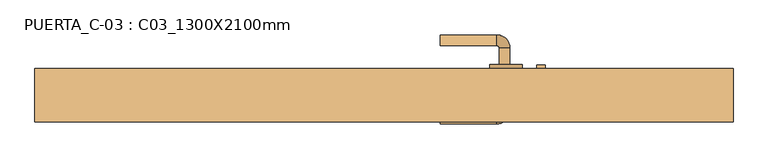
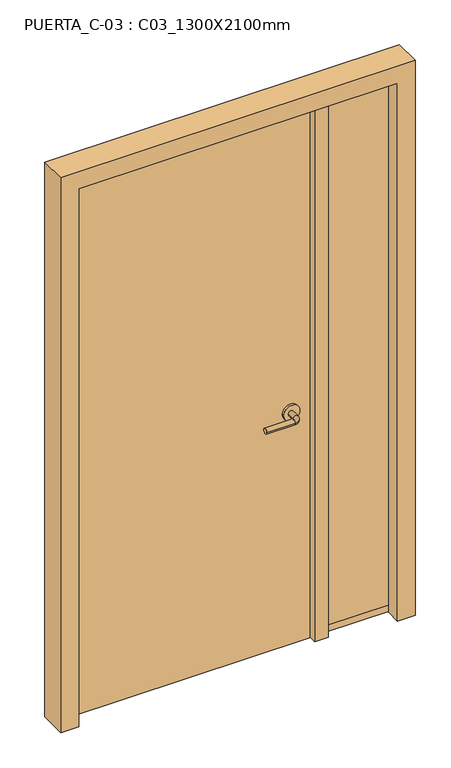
"""IFC4 building model written with IfcOpenShell, lengths in millimetres: door geometry, PUERTA_C-03 : C03_1300X2100mm."""

import ifcopenshell
import ifcopenshell.guid

model = None  # the IFC model being written
_history = None  # IfcOwnerHistory: only IFC2X3 demands one
_inside = {}  # id of a spatial element -> (the spatial element, [elements in it])
_under = {}  # id of a project, library or spatial element -> (it, [spatial elements below it])
_declared = {}  # id of a project -> (the project, [libraries it declares])
_typed = {}  # id of a type object -> (the type object, [elements of that type])
_made_of = {}  # id of a material, layer set ... -> (it, [elements and type objects made of it])


def new_model(schema):
    """Start an empty IFC model of exactly this schema.

    Asked for "IFC4X3", IfcOpenShell would pick the latest addendum, in which some entities
    have other attributes; the version numbers below select the first issue.
    IFC2X3 requires an IfcOwnerHistory on every rooted entity: one is made here for all.
    """
    global model, _history
    if schema == "IFC4X3":
        model = ifcopenshell.file(schema_version=(4, 3, 0, 0))
    else:
        model = ifcopenshell.file(schema=schema)
    _inside.clear()
    _under.clear()
    _declared.clear()
    _typed.clear()
    _made_of.clear()
    _history = None
    if model.schema == "IFC2X3":
        org = make("IfcOrganization", Name="unknown")
        user = make(
            "IfcPersonAndOrganization",
            ThePerson=make("IfcPerson", FamilyName="unknown"),
            TheOrganization=org,
        )
        app = make(
            "IfcApplication",
            ApplicationDeveloper=org,
            Version="unknown",
            ApplicationFullName="unknown",
            ApplicationIdentifier="unknown",
        )
        _history = make(
            "IfcOwnerHistory",
            OwningUser=user,
            OwningApplication=app,
            ChangeAction="ADDED",
            CreationDate=0,
        )
    return model


def make(cls, **values):
    """One entity of the class cls with the attributes given. An attribute that is None is left unset."""
    return model.create_entity(
        cls, **{name: value for name, value in values.items() if value is not None}
    )


def rooted(cls, **values):
    """An entity with a GlobalId (a new one), such as an element, a storey or a relation."""
    return make(cls, GlobalId=ifcopenshell.guid.new(), OwnerHistory=_history, **values)


def si_unit(unit_type, name, prefix=None):
    """IfcSIUnit, for example si_unit("LENGTHUNIT", "METRE", prefix="MILLI")."""
    return make("IfcSIUnit", UnitType=unit_type, Prefix=prefix, Name=name)


def assignment(units):
    """IfcUnitAssignment: the units of a project."""
    return None if units is None else make("IfcUnitAssignment", Units=units)


def point(xyz):
    """IfcCartesianPoint."""
    return None if xyz is None else make("IfcCartesianPoint", Coordinates=xyz)


def direction(xyz):
    """IfcDirection."""
    return None if xyz is None else make("IfcDirection", DirectionRatios=xyz)


def frame(location, z_axis=None, x_axis=None):
    """IfcAxis2Placement3D, a coordinate frame: its origin and axes. An axis left out is left unset."""
    return make(
        "IfcAxis2Placement3D",
        Location=point(location),
        Axis=direction(z_axis),
        RefDirection=direction(x_axis),
    )


def frame_2d(location, x_axis=None):
    """IfcAxis2Placement2D, a coordinate frame in the plane: its origin and x axis."""
    return make(
        "IfcAxis2Placement2D", Location=point(location), RefDirection=direction(x_axis)
    )


def origin():
    """The frame at (0, 0, 0) with its axes left unset."""
    return frame((0.0, 0.0, 0.0))


def origin_with_axes():
    """The frame at (0, 0, 0) with the z axis (0, 0, 1) and the x axis (1, 0, 0) written out."""
    return frame((0.0, 0.0, 0.0), z_axis=(0.0, 0.0, 1.0), x_axis=(1.0, 0.0, 0.0))


def place(relative_to, where):
    """IfcLocalPlacement: puts the frame where relative to a parent placement (None: the world)."""
    return make(
        "IfcLocalPlacement", PlacementRelTo=relative_to, RelativePlacement=where
    )


def context(
    kind, dimensions, precision=None, world=None, true_north=None, identifier=None
):
    """IfcGeometricRepresentationContext, for example the 3D "Model" context."""
    return make(
        "IfcGeometricRepresentationContext",
        ContextIdentifier=identifier,
        ContextType=kind,
        CoordinateSpaceDimension=dimensions,
        Precision=precision,
        WorldCoordinateSystem=world,
        TrueNorth=true_north,
    )


def project(units=None, contexts=None):
    """IfcProject with its units and contexts."""
    return rooted(
        "IfcProject",
        Name="project",
        RepresentationContexts=contexts,
        UnitsInContext=assignment(units),
    )


def spatial(cls, under=None, at=None, **own):
    """A site, building, storey or space (cls), placed at a placement, below another one or the project."""
    s = rooted(cls, ObjectPlacement=at, **own)
    if under is not None:
        _under.setdefault(under.id(), (under, []))[1].append(s)
    return s


def polyline(points):
    """IfcPolyline through the points."""
    return make("IfcPolyline", Points=[point(p) for p in points])


def circle_curve(where, radius):
    """IfcCircle in the frame where."""
    return make("IfcCircle", Position=where, Radius=radius)


def ellipse_curve(where, semi_axis1, semi_axis2):
    """IfcEllipse in the frame where."""
    return make(
        "IfcEllipse", Position=where, SemiAxis1=semi_axis1, SemiAxis2=semi_axis2
    )


def trimmed(basis, trim1, trim2, sense, master):
    """IfcTrimmedCurve: the piece of a basis curve between two trims."""
    return make(
        "IfcTrimmedCurve",
        BasisCurve=basis,
        Trim1=trim1,
        Trim2=trim2,
        SenseAgreement=sense,
        MasterRepresentation=master,
    )


def segment(curve, same_sense, transition):
    """IfcCompositeCurveSegment."""
    return make(
        "IfcCompositeCurveSegment",
        Transition=transition,
        SameSense=same_sense,
        ParentCurve=curve,
    )


def composite_curve(segments, self_intersect=None):
    """IfcCompositeCurve: segments joined end to end."""
    return make("IfcCompositeCurve", Segments=segments, SelfIntersect=self_intersect)


def outline(outer, holes=None, kind="AREA"):
    """IfcArbitraryClosedProfileDef: a profile drawn as a closed curve; with holes, ...WithVoids."""
    if holes is None:
        return make("IfcArbitraryClosedProfileDef", ProfileType=kind, OuterCurve=outer)
    return make(
        "IfcArbitraryProfileDefWithVoids",
        ProfileType=kind,
        OuterCurve=outer,
        InnerCurves=holes,
    )


def extrude(swept, where, along, depth):
    """IfcExtrudedAreaSolid: the profile swept, set in the frame where, extruded along a direction by depth."""
    return make(
        "IfcExtrudedAreaSolid",
        SweptArea=swept,
        Position=where,
        ExtrudedDirection=direction(along),
        Depth=depth,
    )


def faces_of(points, faces, orient=None, outer=None):
    """IfcFace entities. A face is a list of loops; a loop is a list of indices into points, from 0.

    orient and outer hold one flag for each loop. By default every Orientation is true, the
    first loop of a face is its IfcFaceOuterBound and the others are IfcFaceBound.
    """
    made = []
    for i, loops in enumerate(faces):
        bounds = []
        for j, loop in enumerate(loops):
            is_outer = j == 0 if outer is None else outer[i][j]
            bounds.append(
                make(
                    "IfcFaceOuterBound" if is_outer else "IfcFaceBound",
                    Bound=make("IfcPolyLoop", Polygon=[points[k] for k in loop]),
                    Orientation=True if orient is None else orient[i][j],
                )
            )
        made.append(make("IfcFace", Bounds=bounds))
    return made


def faceted_brep(points, faces, orient=None, outer=None, voids=None):
    """IfcFacetedBrep: a solid bounded by flat faces; with voids (closed shells), ...WithVoids."""
    shared = [point(p) for p in points]
    hull = make("IfcClosedShell", CfsFaces=faces_of(shared, faces, orient, outer))
    if voids is None:
        return make("IfcFacetedBrep", Outer=hull)
    return make(
        "IfcFacetedBrepWithVoids",
        Outer=hull,
        Voids=[
            make(cls, CfsFaces=faces_of(shared, fs, o, b)) for cls, fs, o, b in voids
        ],
    )


def shape(context_of_items, identifier, shape_type, items):
    """IfcShapeRepresentation: the items that make up one representation, for example the "Body"."""
    return make(
        "IfcShapeRepresentation",
        ContextOfItems=context_of_items,
        RepresentationIdentifier=identifier,
        RepresentationType=shape_type,
        Items=items,
    )


def source(mapping_origin, context_of_items, identifier, shape_type, items):
    """IfcRepresentationMap: a shape defined once, which mapped items show again and again."""
    return make(
        "IfcRepresentationMap",
        MappingOrigin=mapping_origin,
        MappedRepresentation=shape(context_of_items, identifier, shape_type, items),
    )


def transform(
    local_origin,
    x_axis=None,
    y_axis=None,
    z_axis=None,
    scale=None,
    scale2=None,
    scale3=None,
    uniform=True,
):
    """IfcCartesianTransformationOperator3D, or its non-uniform kind. x_axis, y_axis, z_axis: its Axis1, 2, 3."""
    if uniform:
        return make(
            "IfcCartesianTransformationOperator3D",
            Axis1=direction(x_axis),
            Axis2=direction(y_axis),
            LocalOrigin=point(local_origin),
            Scale=scale,
            Axis3=direction(z_axis),
        )
    return make(
        "IfcCartesianTransformationOperator3DnonUniform",
        Axis1=direction(x_axis),
        Axis2=direction(y_axis),
        LocalOrigin=point(local_origin),
        Scale=scale,
        Axis3=direction(z_axis),
        Scale2=scale2,
        Scale3=scale3,
    )


def mapped(mapping_source, mapping_target):
    """IfcMappedItem: shows the shape of a source again, moved by a transform."""
    return make(
        "IfcMappedItem", MappingSource=mapping_source, MappingTarget=mapping_target
    )


def made_of(thing, what):
    """Note that an element or type object is made of a material, layer set ...; save() writes the relation."""
    if what is not None:
        _made_of.setdefault(what.id(), (what, []))[1].append(thing)
    return thing


def element(
    cls,
    number,
    at=None,
    inside=None,
    cuts=None,
    type_object=None,
    material=None,
    context=None,
    identifier="Body",
    shape_type=None,
    held_by="IfcProductDefinitionShape",
    body=None,
    shapes=None,
    **own,
):
    """One element of the class cls, such as IfcWall. Its Tag is "e" and its number.

    at: its placement. inside: the storey or other place that contains it. cuts: it is an
    opening in that element (IfcRelVoidsElement). A single representation is given by context,
    identifier, shape_type and body (its items); several are given by shapes. held_by: the class
    of the entity that holds the representations. save() writes the other relations.
    """
    e = rooted(cls, Tag="e%d" % number, ObjectPlacement=at, **own)
    if body is not None:
        shapes = [shape(context, identifier, shape_type, body)]
    if shapes is not None:
        e.Representation = make(held_by, Representations=shapes)
    if inside is not None:
        _inside.setdefault(inside.id(), (inside, []))[1].append(e)
    if cuts is not None:
        rooted(
            "IfcRelVoidsElement", RelatingBuildingElement=cuts, RelatedOpeningElement=e
        )
    if type_object is not None:
        _typed.setdefault(type_object.id(), (type_object, []))[1].append(e)
    return made_of(e, material)


def aggregate(whole, parts):
    """IfcRelAggregates: a whole, such as a stair, and the parts it consists of."""
    return rooted("IfcRelAggregates", RelatingObject=whole, RelatedObjects=parts)


def save(model, path):
    """Write the relations noted so far, then the file.

    IfcRelAggregates (storeys below a building ...), IfcRelContainedInSpatialStructure (elements
    in a storey), IfcRelDefinesByType, IfcRelAssociatesMaterial and IfcRelDeclares: one each for
    every whole, place, type object, material and project.
    """
    for whole, parts in _under.values():
        aggregate(whole, parts)
    for where, things in _inside.values():
        rooted(
            "IfcRelContainedInSpatialStructure",
            RelatedElements=things,
            RelatingStructure=where,
        )
    for kind, things in _typed.values():
        rooted("IfcRelDefinesByType", RelatedObjects=things, RelatingType=kind)
    for what, things in _made_of.values():
        rooted("IfcRelAssociatesMaterial", RelatedObjects=things, RelatingMaterial=what)
    for by, libraries in _declared.values():
        rooted("IfcRelDeclares", RelatingContext=by, RelatedDefinitions=libraries)
    model.write(path)


def plane_surface(at):
    """IfcPlane: the flat surface through the origin of the frame at, square to its z axis."""
    return make("IfcPlane", Position=at)


def cylinder_surface(at, radius):
    """IfcCylindricalSurface: all points at the distance radius from the z axis of the frame at."""
    return make("IfcCylindricalSurface", Position=at, Radius=radius)


def revolved_surface(curve, axis_point, axis_direction):
    """IfcSurfaceOfRevolution: the curve turned about the line through axis_point along axis_direction."""
    return make(
        "IfcSurfaceOfRevolution",
        SweptCurve=make("IfcArbitraryOpenProfileDef", ProfileType="CURVE", Curve=curve),
        AxisPosition=make("IfcAxis1Placement", Location=point(axis_point), Axis=direction(axis_direction)),
    )


def advanced_brep(points, edges, surfaces, faces):
    """IfcAdvancedBrep: a solid bounded by faces that lie on surfaces and meet in shared edges.

    An edge is (start, end): straight between two places in points (the first is 0);
    or (start, end, curve); or (start, end, curve, False) where it runs against its curve.
    A face is (place in surfaces, loops), or (place, loops, False) where it looks against
    its surface's normal. A loop lists edges by number (the first is 1), with a minus sign
    where the edge is run from its end to its start. The first loop is the outer one.
    """
    corners = [point(p) for p in points]
    vertices = [make("IfcVertexPoint", VertexGeometry=c) for c in corners]
    made = []
    for start, end, *more in edges:
        made.append(
            make(
                "IfcEdgeCurve",
                EdgeStart=vertices[start],
                EdgeEnd=vertices[end],
                EdgeGeometry=more[0] if more else make("IfcPolyline", Points=[corners[start], corners[end]]),
                SameSense=more[1] if len(more) > 1 else True,
            )
        )
    hull = []
    for where, loops, *sense in faces:
        bounds = []
        for j, loop in enumerate(loops):
            ring = [make("IfcOrientedEdge", EdgeElement=made[abs(k) - 1], Orientation=k > 0) for k in loop]
            bounds.append(
                make(
                    "IfcFaceOuterBound" if j == 0 else "IfcFaceBound",
                    Bound=make("IfcEdgeLoop", EdgeList=ring),
                    Orientation=True,
                )
            )
        hull.append(make("IfcAdvancedFace", Bounds=bounds, FaceSurface=surfaces[where], SameSense=sense[0] if sense else True))
    return make("IfcAdvancedBrep", Outer=make("IfcClosedShell", CfsFaces=hull))


def puerta_c_03_c03_1300x2100mm_d02b1a3e(model_context):
    return source(origin(), model_context, "Body", "SolidModel", [
        advanced_brep(
        [(234.59375, 8.35, 900.0), (214.59375, 8.35, 900.0), (234.59375, -21.65, 900.0), (214.59375, -21.65, 900.0), (209.59375, -26.65, 900.0), (209.59375, -46.65, 900.0), (104.59375, -46.65, 900.0), (104.59375, -26.65, 900.0)],
        [
            (0, 1, circle_curve(frame((224.59375, 8.35, 900.0), z_axis=(0.0, 1.0, 0.0), x_axis=(-1.0, 0.0, 0.0)), 10.0)),
            (1, 0, circle_curve(frame((224.59375, 8.35, 900.0), z_axis=(0.0, 1.0, 0.0), x_axis=(-1.0, 0.0, 0.0)), 10.0)),
            (0, 2),
            (2, 3, circle_curve(frame((224.59375, -21.65, 900.0), z_axis=(0.0, 1.0, 0.0), x_axis=(-1.0, 0.0, 0.0)), 10.0)),
            (3, 1),
            (3, 2, circle_curve(frame((224.59375, -21.65, 900.0), z_axis=(0.0, 1.0, 0.0), x_axis=(-1.0, 0.0, 0.0)), 10.0)),
            (4, 3, circle_curve(frame((209.59375, -21.65, 900.0), z_axis=(0.0, 0.0, 1.0), x_axis=(1.0, 0.0, 0.0)), 5.0)),
            (2, 5, circle_curve(frame((209.59375, -21.65, 900.0), z_axis=(0.0, 0.0, -1.0), x_axis=(1.0, 0.0, 0.0)), 25.0)),
            (5, 4, circle_curve(frame((209.59375, -36.65, 900.0), z_axis=(1.0, 0.0, 0.0), x_axis=(0.0, 1.0, 0.0)), 10.0)),
            (4, 5, circle_curve(frame((209.59375, -36.65, 900.0), z_axis=(1.0, 0.0, 0.0), x_axis=(0.0, 1.0, 0.0)), 10.0)),
            (6, 7, circle_curve(frame((104.59375, -36.65, 900.0), z_axis=(-1.0, 0.0, 0.0), x_axis=(0.0, 1.0, 0.0)), 10.0)),
            (7, 6, circle_curve(frame((104.59375, -36.65, 900.0), z_axis=(-1.0, 0.0, 0.0), x_axis=(0.0, 1.0, 0.0)), 10.0)),
            (5, 6),
            (7, 4),
        ],
        [
            plane_surface(frame((224.59375, 8.35, 900.0), z_axis=(0.0, 1.0, 0.0), x_axis=(0.0, 0.0, 1.0))),
            cylinder_surface(frame((224.59375, 8.35, 900.0), z_axis=(0.0, 1.0, 0.0), x_axis=(-1.0, 0.0, 0.0)), 10.0),
            revolved_surface(trimmed(ellipse_curve(frame((224.59375, -21.65, 900.0), z_axis=(0.0, 1.0, 0.0), x_axis=(-1.0, 0.0, 0.0)), 10.0, 10.0), [point((234.59375, -21.65, 900.0))], [point((214.59375, -21.65, 900.0))], True, "CARTESIAN"), (209.59375, -21.65, 900.0), (0.0, 0.0, -1.0)),
            revolved_surface(trimmed(ellipse_curve(frame((224.59375, -21.65, 900.0), z_axis=(0.0, 1.0, 0.0), x_axis=(-1.0, 0.0, 0.0)), 10.0, 10.0), [point((214.59375, -21.65, 900.0))], [point((234.59375, -21.65, 900.0))], True, "CARTESIAN"), (209.59375, -21.65, 900.0), (0.0, 0.0, -1.0)),
            plane_surface(frame((104.59375, -36.65, 900.0), z_axis=(-1.0, 0.0, 0.0), x_axis=(0.0, 0.0, 1.0))),
            cylinder_surface(frame((209.59375, -36.65, 900.0), z_axis=(1.0, 0.0, 0.0), x_axis=(0.0, 1.0, 0.0)), 10.0),
        ],
        [
            (0, [[1, 2]]),
            (1, [[-1, 3, 4, 5]]),
            (1, [[-2, -5, 6, -3]]),
            (2, [[7, -4, 8, 9]]),
            (3, [[-8, -6, -7, 10]]),
            (4, [[11, 12]]),
            (5, [[-9, 13, -12, 14]]),
            (5, [[-10, -14, -11, -13]]),
        ],
    ),
        extrude(outline(composite_curve([segment(trimmed(circle_curve(frame_2d((900.0, 227.09375)), 30.0), [point((900.0, 257.09375))], [point((900.0, 197.09375))], False, "CARTESIAN"), True, "CONTINUOUS"), segment(trimmed(circle_curve(frame_2d((900.0, 227.09375)), 30.0), [point((900.0, 197.09375))], [point((900.0, 257.09375))], False, "CARTESIAN"), True, "CONTINUOUS")], self_intersect=False)), frame((0.0, 8.35, 0.0), z_axis=(0.0, 1.0, 0.0), x_axis=(0.0, 0.0, 1.0)), (0.0, 0.0, 1.0), 8.0),
        advanced_brep(
        [(234.59375, 64.35, 900.0), (214.59375, 64.35, 900.0), (214.59375, 94.35, 900.0), (234.59375, 94.35, 900.0), (209.59375, 99.35, 900.0), (209.59375, 119.35, 900.0), (104.59375, 119.35, 900.0), (104.59375, 99.35, 900.0)],
        [
            (0, 1, circle_curve(frame((224.59375, 64.35, 900.0), z_axis=(0.0, -1.0, 0.0), x_axis=(-1.0, 0.0, 0.0)), 10.0)),
            (1, 0, circle_curve(frame((224.59375, 64.35, 900.0), z_axis=(0.0, -1.0, 0.0), x_axis=(-1.0, 0.0, 0.0)), 10.0)),
            (1, 2),
            (2, 3, circle_curve(frame((224.59375, 94.35, 900.0), z_axis=(0.0, -1.0, 0.0), x_axis=(-1.0, 0.0, 0.0)), 10.0)),
            (3, 0),
            (3, 2, circle_curve(frame((224.59375, 94.35, 900.0), z_axis=(0.0, -1.0, 0.0), x_axis=(-1.0, 0.0, 0.0)), 10.0)),
            (4, 5, circle_curve(frame((209.59375, 109.35, 900.0), z_axis=(1.0, 0.0, 0.0), x_axis=(0.0, -1.0, 0.0)), 10.0)),
            (5, 3, circle_curve(frame((209.59375, 94.35, 900.0), z_axis=(0.0, 0.0, -1.0), x_axis=(1.0, 0.0, 0.0)), 25.0)),
            (2, 4, circle_curve(frame((209.59375, 94.35, 900.0), z_axis=(0.0, 0.0, 1.0), x_axis=(1.0, 0.0, 0.0)), 5.0)),
            (5, 4, circle_curve(frame((209.59375, 109.35, 900.0), z_axis=(1.0, 0.0, 0.0), x_axis=(0.0, -1.0, 0.0)), 10.0)),
            (6, 7, circle_curve(frame((104.59375, 109.35, 900.0), z_axis=(-1.0, 0.0, 0.0), x_axis=(0.0, -1.0, 0.0)), 10.0)),
            (7, 6, circle_curve(frame((104.59375, 109.35, 900.0), z_axis=(-1.0, 0.0, 0.0), x_axis=(0.0, -1.0, 0.0)), 10.0)),
            (4, 7),
            (6, 5),
        ],
        [
            plane_surface(frame((224.59375, 64.35, 900.0), z_axis=(0.0, -1.0, 0.0), x_axis=(0.0, 0.0, 1.0))),
            cylinder_surface(frame((224.59375, 64.35, 900.0), z_axis=(0.0, -1.0, 0.0), x_axis=(-1.0, 0.0, 0.0)), 10.0),
            revolved_surface(trimmed(ellipse_curve(frame((224.59375, 94.35, 900.0), z_axis=(0.0, 1.0, 0.0), x_axis=(-1.0, 0.0, 0.0)), 10.0, 10.0), [point((234.59375, 94.35, 900.0))], [point((214.59375, 94.35, 900.0))], True, "CARTESIAN"), (209.59375, 94.35, 900.0), (0.0, 0.0, -1.0)),
            revolved_surface(trimmed(ellipse_curve(frame((224.59375, 94.35, 900.0), z_axis=(0.0, 1.0, 0.0), x_axis=(-1.0, 0.0, 0.0)), 10.0, 10.0), [point((214.59375, 94.35, 900.0))], [point((234.59375, 94.35, 900.0))], True, "CARTESIAN"), (209.59375, 94.35, 900.0), (0.0, 0.0, -1.0)),
            plane_surface(frame((104.59375, 109.35, 900.0), z_axis=(-1.0, 0.0, 0.0), x_axis=(0.0, 0.0, 1.0))),
            cylinder_surface(frame((209.59375, 109.35, 900.0), z_axis=(1.0, 0.0, 0.0), x_axis=(0.0, -1.0, 0.0)), 10.0),
        ],
        [
            (0, [[1, 2]]),
            (1, [[3, 4, 5, -2]]),
            (1, [[-5, 6, -3, -1]]),
            (2, [[7, 8, -4, 9]]),
            (3, [[10, -9, -6, -8]]),
            (4, [[11, 12]]),
            (5, [[13, -11, 14, -7]]),
            (5, [[-14, -12, -13, -10]]),
        ],
    ),
        extrude(outline(composite_curve([segment(trimmed(circle_curve(frame_2d((900.0, 227.09375)), 30.0), [point((900.0, 257.09375))], [point((900.0, 197.09375))], False, "CARTESIAN"), True, "CONTINUOUS"), segment(trimmed(circle_curve(frame_2d((900.0, 227.09375)), 30.0), [point((900.0, 197.09375))], [point((900.0, 257.09375))], False, "CARTESIAN"), True, "CONTINUOUS")], self_intersect=False)), frame((0.0, 56.35, 0.0), z_axis=(0.0, 1.0, 0.0), x_axis=(0.0, 0.0, 1.0)), (0.0, 0.0, 1.0), 8.0),
        extrude(outline(polyline([(300.0, 63.1875), (300.0, 56.35), (350.0, 56.35), (350.0, -12.05), (300.0, -12.05), (300.0, 37.1625), (284.125, 37.1625), (284.125, 63.1875), (300.0, 63.1875)])), origin_with_axes(), (0.0, 0.0, 1.0), 2100.0),
        faceted_brep([(600.0, 11.5875, 0.0), (600.0, 56.35, 0.0), (650.0, 56.35, 0.0), (650.0, -43.65, 0.0), (584.125, -43.65, 0.0), (584.125, 11.5875, 0.0), (600.0, 11.5875, 2100.0), (600.0, 56.35, 2100.0), (-600.0, 56.35, 2100.0), (-600.0, 56.35, 0.0), (-650.0, 56.35, 0.0), (-650.0, 56.35, 2150.0), (650.0, 56.35, 2150.0), (650.0, -43.65, 2150.0), (-650.0, -43.65, 2150.0), (-650.0, -43.65, 0.0), (-584.125, -43.65, 0.0), (-584.125, -43.65, 2084.125), (584.125, -43.65, 2084.125), (584.125, 11.5875, 2084.125), (-584.125, 11.5875, 2084.125), (-584.125, 11.5875, 0.0), (-600.0, 11.5875, 0.0), (-600.0, 11.5875, 2100.0)], [[[0, 1, 2, 3, 4, 5]], [[1, 0, 6, 7]], [[2, 1, 7, 8, 9, 10, 11, 12]], [[3, 2, 12, 13]], [[4, 3, 13, 14, 15, 16, 17, 18]], [[5, 4, 18, 19]], [[0, 5, 19, 20, 21, 22, 23, 6]], [[7, 6, 23, 8]], [[13, 12, 11, 14]], [[19, 18, 17, 20]], [[22, 21, 16, 15, 10, 9]], [[8, 23, 22, 9]], [[14, 11, 10, 15]], [[20, 17, 16, 21]]]),
        extrude(outline(polyline([(298.4, 16.35), (-600.0, 16.35), (-600.0, 56.35), (298.4, 56.35), (298.4, 16.35)])), origin_with_axes(), (0.0, 0.0, 1.0), 2100.0),
        extrude(outline(polyline([(2100.0, 350.0), (1400.0, 350.0), (25.0, 350.0), (25.0, 600.0), (1400.0, 600.0), (2100.0, 600.0), (2100.0, 350.0)])), frame((0.0, 16.35, 0.0), z_axis=(0.0, 1.0, 0.0), x_axis=(0.0, 0.0, 1.0)), (0.0, 0.0, 1.0), 10.0),
        extrude(outline(polyline([(25.0, 600.0), (1400.0, 600.0), (1400.0, 350.0), (25.0, 350.0), (25.0, 600.0)]), holes=[composite_curve([segment(trimmed(circle_curve(frame_2d((700.0, 475.0)), 100.0), [point((700.0, 575.0))], [point((700.0, 375.0))], True, "CARTESIAN"), True, "CONTINUOUS"), segment(trimmed(circle_curve(frame_2d((700.0, 475.0)), 100.0), [point((700.0, 375.0))], [point((700.0, 575.0))], True, "CARTESIAN"), True, "CONTINUOUS")], self_intersect=False)]), frame((0.0, 26.35, 0.0), z_axis=(0.0, 1.0, 0.0), x_axis=(0.0, 0.0, 1.0)), (0.0, 0.0, 1.0), 1.0),
        extrude(outline(polyline([(350.0, 36.35), (600.0, 36.35), (600.0, 16.35), (350.0, 16.35), (350.0, 36.35)])), origin_with_axes(), (0.0, 0.0, 1.0), 25.0),
    ])


if __name__ == "__main__":
    model = new_model("IFC4")
    model_context = context("Model", 3, world=origin())
    ifc_project = project(units=[si_unit("LENGTHUNIT", "METRE", prefix="MILLI")], contexts=[model_context])
    site = spatial("IfcSite", under=ifc_project)
    building = spatial("IfcBuilding", under=site)
    placement = place(None, origin())
    puerta_c_03_c03_1300x2100mm_shape = puerta_c_03_c03_1300x2100mm_d02b1a3e(model_context)
    element("IfcDoor", 1, ObjectType="PUERTA_C-03 : C03_1300X2100mm", at=placement, inside=building, context=model_context, shape_type="MappedRepresentation", body=[
        mapped(puerta_c_03_c03_1300x2100mm_shape, transform((0.0, 0.0, 0.0), x_axis=(1.0, 0.0, 0.0), y_axis=(0.0, 1.0, 0.0), z_axis=(0.0, 0.0, 1.0))),
    ])
    save(model, "model.ifc")
